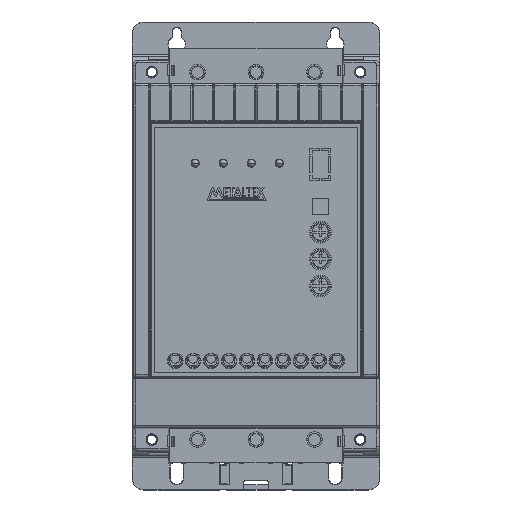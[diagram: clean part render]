
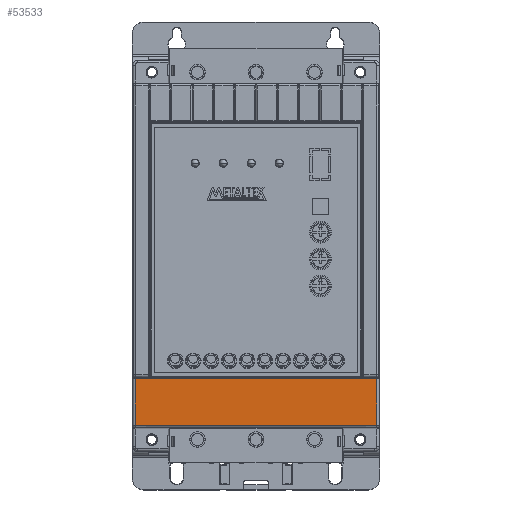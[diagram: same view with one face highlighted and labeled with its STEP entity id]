
A CAD part, top view. The second image highlights one B-rep face of the part: STEP entity #53533.
In plain terms, the highlighted planar face has unit normal (0, -0.046, 0.999).
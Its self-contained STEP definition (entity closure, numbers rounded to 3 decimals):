
#38552 = CYLINDRICAL_SURFACE('',#38553,1.);
#38553 = AXIS2_PLACEMENT_3D('',#38554,#38555,#38556);
#38554 = CARTESIAN_POINT('',(-51.624,64.592,
    59.959));
#38555 = DIRECTION('',(0.,0.999,
    0.046));
#38556 = DIRECTION('',(0.,-0.046,
    0.999));
#40942 = CYLINDRICAL_SURFACE('',#40943,0.5);
#40943 = AXIS2_PLACEMENT_3D('',#40944,#40945,#40946);
#40944 = CARTESIAN_POINT('',(-50.,-49.,56.177));
#40945 = DIRECTION('',(-1.,0.,0.));
#40946 = DIRECTION('',(0.,0.,1.));
#49638 = CYLINDRICAL_SURFACE('',#49639,1.);
#49639 = AXIS2_PLACEMENT_3D('',#49640,#49641,#49642);
#49640 = CARTESIAN_POINT('',(51.676,-65.127,
    53.926));
#49641 = DIRECTION('',(0.,-0.999,
    -0.046));
#49642 = DIRECTION('',(0.,0.046,
    -0.999));
#53533 = ADVANCED_FACE('',(#53534),#53548,.T.);
#53534 = FACE_BOUND('',#53535,.T.);
#53535 = EDGE_LOOP('',(#53536,#53566,#53589,#53645));
#53536 = ORIENTED_EDGE('',*,*,#53537,.T.);
#53537 = EDGE_CURVE('',#53538,#53540,#53542,.T.);
#53538 = VERTEX_POINT('',#53539);
#53539 = CARTESIAN_POINT('',(51.67,-48.977,
    55.678));
#53540 = VERTEX_POINT('',#53541);
#53541 = CARTESIAN_POINT('',(-51.67,-48.977,
    55.678));
#53542 = SURFACE_CURVE('',#53543,(#53547,#53559),.PCURVE_S1.);
#53543 = LINE('',#53544,#53545);
#53544 = CARTESIAN_POINT('',(-51.661,-48.977,
    55.678));
#53545 = VECTOR('',#53546,1.);
#53546 = DIRECTION('',(-1.,0.,0.));
#53547 = PCURVE('',#53548,#53553);
#53548 = PLANE('',#53549);
#53549 = AXIS2_PLACEMENT_3D('',#53550,#53551,#53552);
#53550 = CARTESIAN_POINT('',(0.,-70.,54.7));
#53551 = DIRECTION('',(0.,-0.046,0.999));
#53552 = DIRECTION('',(0.,-0.999,-0.046));
#53553 = DEFINITIONAL_REPRESENTATION('',(#53554),#53558);
#53554 = LINE('',#53555,#53556);
#53555 = CARTESIAN_POINT('',(-21.046,-51.661));
#53556 = VECTOR('',#53557,1.);
#53557 = DIRECTION('',(-0.,-1.));
#53558 = ( GEOMETRIC_REPRESENTATION_CONTEXT(2) 
PARAMETRIC_REPRESENTATION_CONTEXT() REPRESENTATION_CONTEXT('2D SPACE',''
  ) );
#53559 = PCURVE('',#40942,#53560);
#53560 = DEFINITIONAL_REPRESENTATION('',(#53561),#53565);
#53561 = LINE('',#53562,#53563);
#53562 = CARTESIAN_POINT('',(3.095,1.661));
#53563 = VECTOR('',#53564,1.);
#53564 = DIRECTION('',(0.,1.));
#53565 = ( GEOMETRIC_REPRESENTATION_CONTEXT(2) 
PARAMETRIC_REPRESENTATION_CONTEXT() REPRESENTATION_CONTEXT('2D SPACE',''
  ) );
#53566 = ORIENTED_EDGE('',*,*,#53567,.T.);
#53567 = EDGE_CURVE('',#53540,#53568,#53570,.T.);
#53568 = VERTEX_POINT('',#53569);
#53569 = CARTESIAN_POINT('',(-51.678,-69.053,
    54.744));
#53570 = SURFACE_CURVE('',#53571,(#53575,#53582),.PCURVE_S1.);
#53571 = LINE('',#53572,#53573);
#53572 = CARTESIAN_POINT('',(-51.678,-69.979,
    54.701));
#53573 = VECTOR('',#53574,1.);
#53574 = DIRECTION('',(0.,-0.999,
    -0.046));
#53575 = PCURVE('',#53548,#53576);
#53576 = DEFINITIONAL_REPRESENTATION('',(#53577),#53581);
#53577 = LINE('',#53578,#53579);
#53578 = CARTESIAN_POINT('',(-0.021,-51.678));
#53579 = VECTOR('',#53580,1.);
#53580 = DIRECTION('',(1.,0.));
#53581 = ( GEOMETRIC_REPRESENTATION_CONTEXT(2) 
PARAMETRIC_REPRESENTATION_CONTEXT() REPRESENTATION_CONTEXT('2D SPACE',''
  ) );
#53582 = PCURVE('',#38552,#53583);
#53583 = DEFINITIONAL_REPRESENTATION('',(#53584),#53588);
#53584 = LINE('',#53585,#53586);
#53585 = CARTESIAN_POINT('',(6.283,-134.67));
#53586 = VECTOR('',#53587,1.);
#53587 = DIRECTION('',(0.,-1.));
#53588 = ( GEOMETRIC_REPRESENTATION_CONTEXT(2) 
PARAMETRIC_REPRESENTATION_CONTEXT() REPRESENTATION_CONTEXT('2D SPACE',''
  ) );
#53589 = ORIENTED_EDGE('',*,*,#53590,.T.);
#53590 = EDGE_CURVE('',#53568,#53591,#53593,.T.);
#53591 = VERTEX_POINT('',#53592);
#53592 = CARTESIAN_POINT('',(51.678,-69.053,
    54.744));
#53593 = SURFACE_CURVE('',#53594,(#53608,#53625),.PCURVE_S1.);
#53594 = B_SPLINE_CURVE_WITH_KNOTS('',3,(#53595,#53596,#53597,#53598,
    #53599,#53600,#53601,#53602,#53603,#53604,#53605,#53606,#53607),
  .UNSPECIFIED.,.F.,.F.,(4,3,3,3,4),(0.,0.019,
    0.097,0.406,1.),.UNSPECIFIED.);
#53595 = CARTESIAN_POINT('',(-51.678,-69.053,
    54.744));
#53596 = CARTESIAN_POINT('',(-51.011,-69.053,
    54.744));
#53597 = CARTESIAN_POINT('',(-50.344,-69.053,
    54.744));
#53598 = CARTESIAN_POINT('',(-49.678,-69.053,
    54.744));
#53599 = CARTESIAN_POINT('',(-47.011,-69.053,
    54.744));
#53600 = CARTESIAN_POINT('',(-44.344,-69.053,
    54.744));
#53601 = CARTESIAN_POINT('',(-41.678,-69.053,
    54.744));
#53602 = CARTESIAN_POINT('',(-31.011,-69.053,
    54.744));
#53603 = CARTESIAN_POINT('',(-20.344,-69.053,
    54.744));
#53604 = CARTESIAN_POINT('',(-9.678,-69.053,
    54.744));
#53605 = CARTESIAN_POINT('',(10.774,-69.053,
    54.744));
#53606 = CARTESIAN_POINT('',(31.226,-69.053,
    54.744));
#53607 = CARTESIAN_POINT('',(51.678,-69.053,
    54.744));
#53608 = PCURVE('',#53548,#53609);
#53609 = DEFINITIONAL_REPRESENTATION('',(#53610),#53624);
#53610 = B_SPLINE_CURVE_WITH_KNOTS('',3,(#53611,#53612,#53613,#53614,
    #53615,#53616,#53617,#53618,#53619,#53620,#53621,#53622,#53623),
  .UNSPECIFIED.,.F.,.F.,(4,3,3,3,4),(0.,0.019,
    0.097,0.406,1.),.UNSPECIFIED.);
#53611 = CARTESIAN_POINT('',(-0.948,-51.678));
#53612 = CARTESIAN_POINT('',(-0.948,-51.011));
#53613 = CARTESIAN_POINT('',(-0.948,-50.344));
#53614 = CARTESIAN_POINT('',(-0.948,-49.678));
#53615 = CARTESIAN_POINT('',(-0.948,-47.011));
#53616 = CARTESIAN_POINT('',(-0.948,-44.344));
#53617 = CARTESIAN_POINT('',(-0.948,-41.678));
#53618 = CARTESIAN_POINT('',(-0.948,-31.011));
#53619 = CARTESIAN_POINT('',(-0.948,-20.344));
#53620 = CARTESIAN_POINT('',(-0.948,-9.678));
#53621 = CARTESIAN_POINT('',(-0.948,10.774));
#53622 = CARTESIAN_POINT('',(-0.948,31.226));
#53623 = CARTESIAN_POINT('',(-0.948,51.678));
#53624 = ( GEOMETRIC_REPRESENTATION_CONTEXT(2) 
PARAMETRIC_REPRESENTATION_CONTEXT() REPRESENTATION_CONTEXT('2D SPACE',''
  ) );
#53625 = PCURVE('',#53626,#53639);
#53626 = ( BOUNDED_SURFACE() B_SPLINE_SURFACE(3,2,(
    (#53627,#53628,#53629)
    ,(#53630,#53631,#53632)
    ,(#53633,#53634,#53635)
    ,(#53636,#53637,#53638
)),.UNSPECIFIED.,.F.,.F.,.F.) B_SPLINE_SURFACE_WITH_KNOTS((4,4),(3,3),(
    0.,1.),(0.,1.),.PIECEWISE_BEZIER_KNOTS.) 
GEOMETRIC_REPRESENTATION_ITEM() RATIONAL_B_SPLINE_SURFACE((
    (1.,0.726,1.)
    ,(1.,0.726,1.)
    ,(1.,0.726,1.)
,(1.,0.726,1.))) REPRESENTATION_ITEM('') SURFACE() );
#53627 = CARTESIAN_POINT('',(51.678,-69.053,
    54.744));
#53628 = CARTESIAN_POINT('',(51.678,-70.,54.7));
#53629 = CARTESIAN_POINT('',(51.678,-70.007,
    53.752));
#53630 = CARTESIAN_POINT('',(17.226,-69.053,
    54.744));
#53631 = CARTESIAN_POINT('',(17.226,-70.,
    54.7));
#53632 = CARTESIAN_POINT('',(17.226,-70.007,
    53.752));
#53633 = CARTESIAN_POINT('',(-17.226,-69.053,
    54.744));
#53634 = CARTESIAN_POINT('',(-17.226,-70.,54.7));
#53635 = CARTESIAN_POINT('',(-17.226,-70.007,
    53.752));
#53636 = CARTESIAN_POINT('',(-51.678,-69.053,
    54.744));
#53637 = CARTESIAN_POINT('',(-51.678,-70.,54.7));
#53638 = CARTESIAN_POINT('',(-51.678,-70.007,
    53.752));
#53639 = DEFINITIONAL_REPRESENTATION('',(#53640),#53644);
#53640 = LINE('',#53641,#53642);
#53641 = CARTESIAN_POINT('',(1.,0.));
#53642 = VECTOR('',#53643,1.);
#53643 = DIRECTION('',(-1.,0.));
#53644 = ( GEOMETRIC_REPRESENTATION_CONTEXT(2) 
PARAMETRIC_REPRESENTATION_CONTEXT() REPRESENTATION_CONTEXT('2D SPACE',''
  ) );
#53645 = ORIENTED_EDGE('',*,*,#53646,.T.);
#53646 = EDGE_CURVE('',#53591,#53538,#53647,.T.);
#53647 = SURFACE_CURVE('',#53648,(#53652,#53659),.PCURVE_S1.);
#53648 = LINE('',#53649,#53650);
#53649 = CARTESIAN_POINT('',(51.678,-69.979,
    54.701));
#53650 = VECTOR('',#53651,1.);
#53651 = DIRECTION('',(0.,0.999,
    0.046));
#53652 = PCURVE('',#53548,#53653);
#53653 = DEFINITIONAL_REPRESENTATION('',(#53654),#53658);
#53654 = LINE('',#53655,#53656);
#53655 = CARTESIAN_POINT('',(-0.021,51.678));
#53656 = VECTOR('',#53657,1.);
#53657 = DIRECTION('',(-1.,0.));
#53658 = ( GEOMETRIC_REPRESENTATION_CONTEXT(2) 
PARAMETRIC_REPRESENTATION_CONTEXT() REPRESENTATION_CONTEXT('2D SPACE',''
  ) );
#53659 = PCURVE('',#49638,#53660);
#53660 = DEFINITIONAL_REPRESENTATION('',(#53661),#53665);
#53661 = LINE('',#53662,#53663);
#53662 = CARTESIAN_POINT('',(3.142,4.811));
#53663 = VECTOR('',#53664,1.);
#53664 = DIRECTION('',(0.,-1.));
#53665 = ( GEOMETRIC_REPRESENTATION_CONTEXT(2) 
PARAMETRIC_REPRESENTATION_CONTEXT() REPRESENTATION_CONTEXT('2D SPACE',''
  ) );
